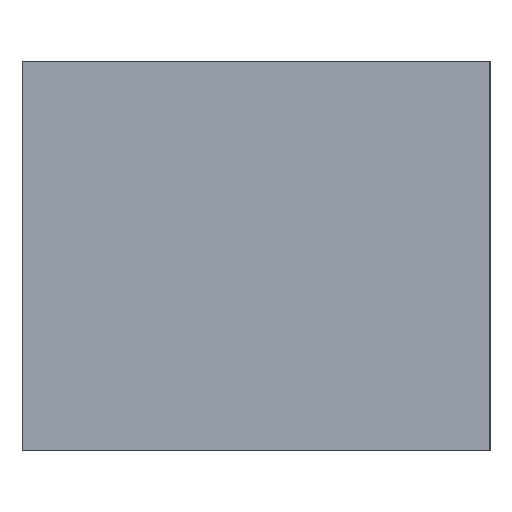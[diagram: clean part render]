
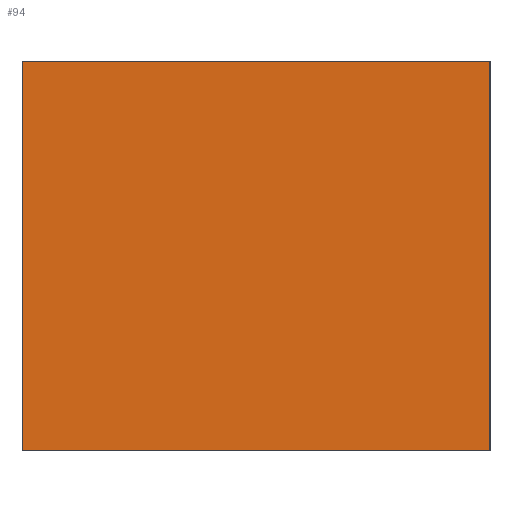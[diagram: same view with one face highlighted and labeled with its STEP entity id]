
A CAD part, left-side view. The second image highlights one B-rep face of the part: STEP entity #94.
In plain terms, the highlighted planar face has unit normal (-1, 0, 0).
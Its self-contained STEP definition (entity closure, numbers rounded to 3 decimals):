
#94=ADVANCED_FACE('',(#216),#218,.F.);
#216=FACE_BOUND('',#217,.T.);
#217=EDGE_LOOP('',(#313,#314,#315,#316));
#218=PLANE('',#219);
#219=AXIS2_PLACEMENT_3D('',#220,#221,#222);
#220=CARTESIAN_POINT('',(-108.045,-6.511,-20.));
#221=DIRECTION('',(1.,0.,0.));
#222=DIRECTION('',(0.,1.,0.));
#313=ORIENTED_EDGE('',*,*,#371,.F.);
#314=ORIENTED_EDGE('',*,*,#368,.F.);
#315=ORIENTED_EDGE('',*,*,#356,.F.);
#316=ORIENTED_EDGE('',*,*,#366,.F.);
#356=EDGE_CURVE('',#389,#391,#392,.F.);
#366=EDGE_CURVE('',#408,#389,#410,.F.);
#368=EDGE_CURVE('',#391,#413,#414,.F.);
#371=EDGE_CURVE('',#413,#408,#417,.T.);
#389=VERTEX_POINT('',#445);
#391=VERTEX_POINT('',#449);
#392=LINE('',#450,#451);
#408=VERTEX_POINT('',#484);
#410=LINE('',#488,#489);
#413=VERTEX_POINT('',#495);
#414=LINE('',#496,#497);
#417=LINE('',#505,#506);
#445=CARTESIAN_POINT('',(-108.045,12.,10.));
#449=CARTESIAN_POINT('',(-108.045,0.,10.));
#450=CARTESIAN_POINT('',(-108.045,0.,10.));
#451=VECTOR('',#452,1.);
#452=DIRECTION('',(0.,1.,0.));
#484=CARTESIAN_POINT('',(-108.045,12.,0.));
#488=CARTESIAN_POINT('',(-108.045,12.,10.));
#489=VECTOR('',#490,1.);
#490=DIRECTION('',(0.,0.,-1.));
#495=CARTESIAN_POINT('',(-108.045,0.,0.));
#496=CARTESIAN_POINT('',(-108.045,0.,0.));
#497=VECTOR('',#498,1.);
#498=DIRECTION('',(0.,0.,1.));
#505=CARTESIAN_POINT('',(-108.045,0.,0.));
#506=VECTOR('',#507,1.);
#507=DIRECTION('',(0.,1.,0.));
